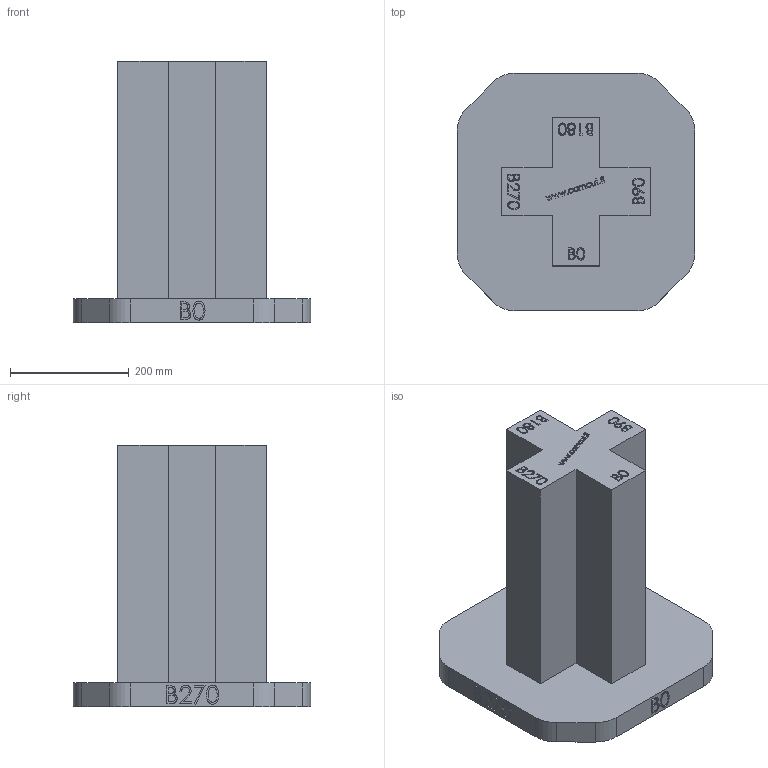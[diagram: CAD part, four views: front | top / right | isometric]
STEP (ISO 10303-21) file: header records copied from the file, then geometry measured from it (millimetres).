
FILE_DESCRIPTION((''),'2;1');
FILE_NAME('C:\Users\User\Desktop\Mastercam-harjoitukset\torni2.stp','2020-03-25T21:50:59',(''),(''),'STEP Write','Mastercam 2020 ... CNC Software, Inc.','');
FILE_SCHEMA(('AUTOMOTIVE_DESIGN'));
Length unit declared in the file: millimetre
Products named in the file (1): None
Bounding box: 400 x 400 x 440 mm (x, y, z)
Volume: 19360830.3 mm3; surface area: 762833 mm2
Topology: 1 solids, 1 shells, 572 faces, 1494 edges, 996 vertices
Faces by surface type: plane 301, bspline 263, cylinder 8
Entity records: 33827 total; most frequent: CARTESIAN_POINT 20935, ORIENTED_EDGE 2988, DIRECTION 1606, EDGE_CURVE 1494, VERTEX_POINT 996, VECTOR 952, LINE 952, EDGE_LOOP 644
